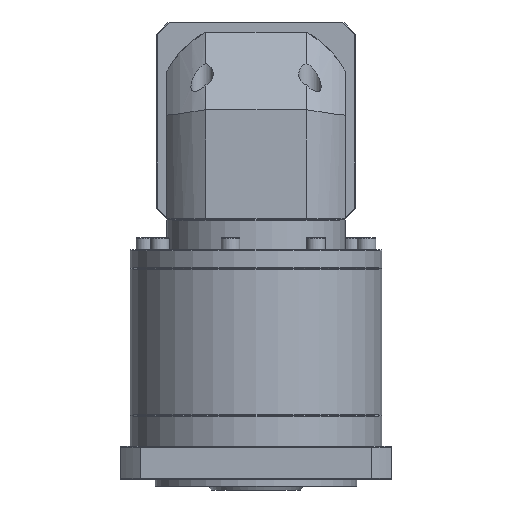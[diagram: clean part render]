
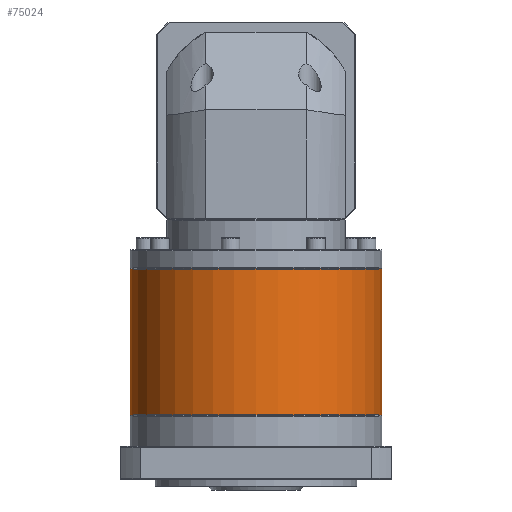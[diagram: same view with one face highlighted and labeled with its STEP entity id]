
A CAD part, front view. The second image highlights one B-rep face of the part: STEP entity #75024.
In plain terms, the highlighted cylindrical face has radius 81 mm (diameter 162 mm), a partial arc.
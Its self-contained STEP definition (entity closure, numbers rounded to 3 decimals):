
#2243 = DIRECTION ( 'NONE',  ( -1., 0., 0. ) ) ;
#2643 = VECTOR ( 'NONE', #91971, 1000. ) ;
#2769 = CIRCLE ( 'NONE', #4484, 81. ) ;
#4484 = AXIS2_PLACEMENT_3D ( 'NONE', #81418, #39930, #48699 ) ;
#5743 = CYLINDRICAL_SURFACE ( 'NONE', #87436, 81. ) ;
#5997 = LINE ( 'NONE', #28344, #2643 ) ;
#9150 = EDGE_CURVE ( 'NONE', #21322, #61626, #2769, .T. ) ;
#11111 = CARTESIAN_POINT ( 'NONE',  ( -151.759, 113.777, -54.899 ) ) ;
#21322 = VERTEX_POINT ( 'NONE', #90087 ) ;
#22064 = AXIS2_PLACEMENT_3D ( 'NONE', #36487, #110236, #26724 ) ;
#25283 = CARTESIAN_POINT ( 'NONE',  ( -70.759, 113.777, -54.899 ) ) ;
#26724 = DIRECTION ( 'NONE',  ( -1., 0., 0. ) ) ;
#28344 = CARTESIAN_POINT ( 'NONE',  ( -232.759, 113.777, -54.899 ) ) ;
#31685 = CARTESIAN_POINT ( 'NONE',  ( -232.759, 113.777, -55.399 ) ) ;
#34916 = VECTOR ( 'NONE', #130033, 1000. ) ;
#36487 = CARTESIAN_POINT ( 'NONE',  ( -151.759, 113.777, -55.399 ) ) ;
#39930 = DIRECTION ( 'NONE',  ( 0., 0., 1. ) ) ;
#41556 = ORIENTED_EDGE ( 'NONE', *, *, #66969, .T. ) ;
#42721 = CARTESIAN_POINT ( 'NONE',  ( -70.759, 113.777, -148.899 ) ) ;
#43787 = DIRECTION ( 'NONE',  ( 0., 0., -1. ) ) ;
#45694 = EDGE_CURVE ( 'NONE', #57042, #120621, #100308, .T. ) ;
#46055 = CARTESIAN_POINT ( 'NONE',  ( -70.759, 113.777, -55.399 ) ) ;
#48699 = DIRECTION ( 'NONE',  ( -1., 0., 0. ) ) ;
#54044 = EDGE_LOOP ( 'NONE', ( #108252, #128439, #41556, #58963 ) ) ;
#57042 = VERTEX_POINT ( 'NONE', #46055 ) ;
#58963 = ORIENTED_EDGE ( 'NONE', *, *, #9150, .T. ) ;
#61626 = VERTEX_POINT ( 'NONE', #42721 ) ;
#66896 = FACE_OUTER_BOUND ( 'NONE', #54044, .T. ) ;
#66969 = EDGE_CURVE ( 'NONE', #120621, #21322, #5997, .T. ) ;
#75024 = ADVANCED_FACE ( 'NONE', ( #66896 ), #5743, .T. ) ;
#81418 = CARTESIAN_POINT ( 'NONE',  ( -151.759, 113.777, -148.899 ) ) ;
#84294 = LINE ( 'NONE', #25283, #34916 ) ;
#87436 = AXIS2_PLACEMENT_3D ( 'NONE', #11111, #43787, #2243 ) ;
#90087 = CARTESIAN_POINT ( 'NONE',  ( -232.759, 113.777, -148.899 ) ) ;
#91971 = DIRECTION ( 'NONE',  ( 0., 0., -1. ) ) ;
#100308 = CIRCLE ( 'NONE', #22064, 81. ) ;
#108252 = ORIENTED_EDGE ( 'NONE', *, *, #126569, .F. ) ;
#110236 = DIRECTION ( 'NONE',  ( 0., 0., -1. ) ) ;
#120621 = VERTEX_POINT ( 'NONE', #31685 ) ;
#126569 = EDGE_CURVE ( 'NONE', #57042, #61626, #84294, .T. ) ;
#128439 = ORIENTED_EDGE ( 'NONE', *, *, #45694, .T. ) ;
#130033 = DIRECTION ( 'NONE',  ( 0., 0., -1. ) ) ;
